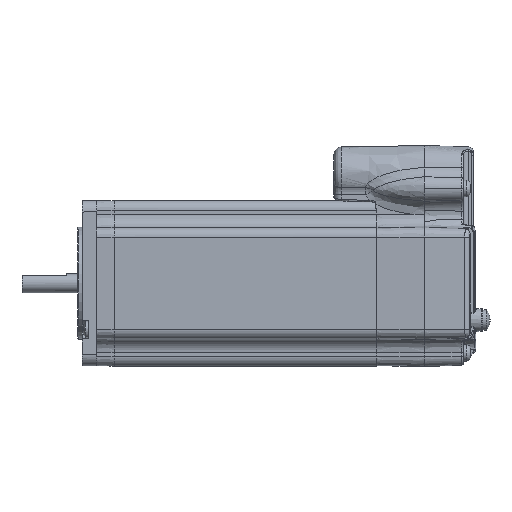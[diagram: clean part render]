
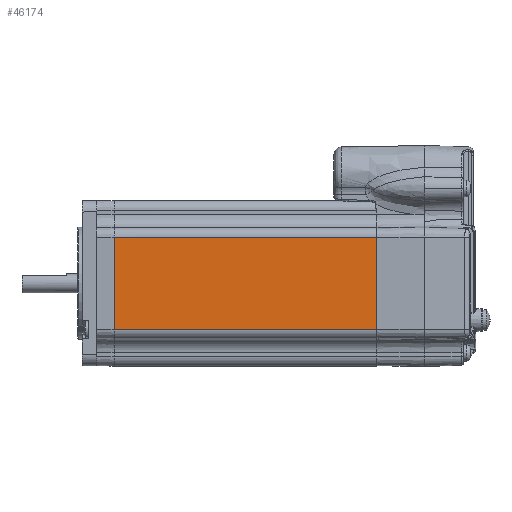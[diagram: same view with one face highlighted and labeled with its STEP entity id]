
A CAD part, left-side view. The second image highlights one B-rep face of the part: STEP entity #46174.
In plain terms, the highlighted planar face has unit normal (-1, 0, 0).
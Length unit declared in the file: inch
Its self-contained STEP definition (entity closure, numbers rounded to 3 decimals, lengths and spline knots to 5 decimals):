
#45151=CARTESIAN_POINT('',(-1.96424,5.18699,-0.67064));
#45152=VERTEX_POINT('',#45151);
#45183=CARTESIAN_POINT('',(-1.96424,5.18699,0.56486));
#45184=VERTEX_POINT('',#45183);
#45185=CARTESIAN_POINT('',(-1.96424,5.18699,0.28689));
#45186=DIRECTION('',(0.,0.,-1.));
#45187=VECTOR('',#45186,1.);
#45188=LINE('',#45185,#45187);
#45189=EDGE_CURVE('',#45184,#45152,#45188,.T.);
#46118=CARTESIAN_POINT('',(-1.96424,1.67113,-0.67064));
#46119=VERTEX_POINT('',#46118);
#46120=CARTESIAN_POINT('',(-1.96424,1.68113,-0.67064));
#46121=DIRECTION('',(0.,1.,0.));
#46122=VECTOR('',#46121,1.);
#46123=LINE('',#46120,#46122);
#46124=EDGE_CURVE('',#46119,#45152,#46123,.T.);
#46151=CARTESIAN_POINT('',(-1.96424,1.67113,0.56486));
#46152=VERTEX_POINT('',#46151);
#46153=CARTESIAN_POINT('',(-1.96424,1.68113,0.56486));
#46154=DIRECTION('',(0.,-1.,0.));
#46155=VECTOR('',#46154,1.);
#46156=LINE('',#46153,#46155);
#46157=EDGE_CURVE('',#45184,#46152,#46156,.T.);
#46158=ORIENTED_EDGE('',*,*,#46157,.F.);
#46159=ORIENTED_EDGE('',*,*,#45189,.T.);
#46160=ORIENTED_EDGE('',*,*,#46124,.F.);
#46161=CARTESIAN_POINT('',(-1.96424,1.67113,0.28689));
#46162=DIRECTION('',(0.,0.,1.));
#46163=VECTOR('',#46162,1.);
#46164=LINE('',#46161,#46163);
#46165=EDGE_CURVE('',#46119,#46152,#46164,.T.);
#46166=ORIENTED_EDGE('',*,*,#46165,.T.);
#46167=EDGE_LOOP('',(#46158,#46159,#46160,#46166));
#46168=FACE_OUTER_BOUND('',#46167,.T.);
#46169=CARTESIAN_POINT('',(-1.96424,1.68113,0.62667));
#46170=DIRECTION('',(-1.,0.,0.));
#46171=DIRECTION('',(0.,0.,1.));
#46172=AXIS2_PLACEMENT_3D('',#46169,#46170,#46171);
#46173=PLANE('',#46172);
#46174=ADVANCED_FACE('',(#46168),#46173,.T.);
